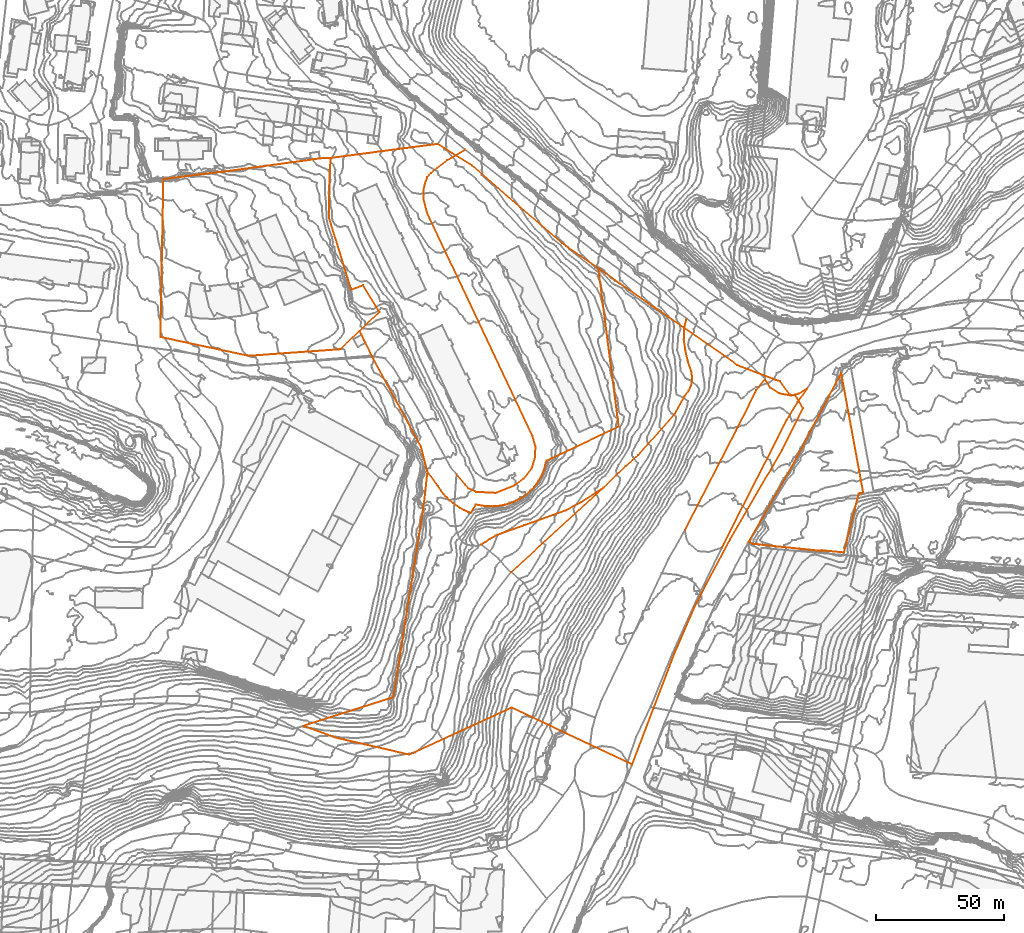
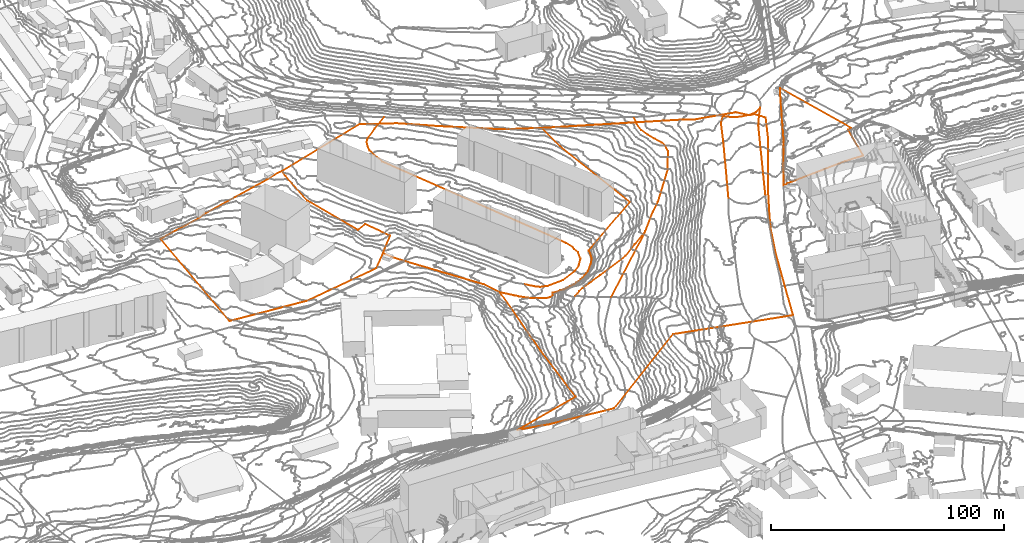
# Not in any storey, part 249 of 419: 11 proxies.
"""IFC2X3 model written with IfcOpenShell, lengths in metres."""

from ifc_helpers import new_model, entity, si_unit, frame, origin_with_axes, place, context, subcontext, project, element, save


model = new_model("IFC2X3")

# Units and contexts
model_context = context("Model", 3, precision=1e-05, world=origin_with_axes())
body_context = subcontext(model_context, "Body", "Model", "MODEL_VIEW")
ifc_project = project(units=[si_unit("AREAUNIT", "SQUARE_METRE"), si_unit("LENGTHUNIT", "METRE")], contexts=[model_context])

# Proxies
proxy_1_placement = place(None, frame((797.4920204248, 538.5976909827, 71.9), z_axis=(0.0, 0.0, 1.0), x_axis=(1.0, 0.0, 0.0)))
element("IfcBuildingElementProxy", 1, at=proxy_1_placement, Name="Route 43", ObjectType="NOTDEFINED", context=body_context, shape_type="GeometricCurveSet", body=[
    entity("IfcGeometricCurveSet", [entity("IfcPolyline", [entity("IfcCartesianPoint", [0.0, 0.0, 0.0]), entity("IfcCartesianPoint", [2.0, -3.4000000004, 0.8]), entity("IfcCartesianPoint", [5.4, -5.6000000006, 1.1]), entity("IfcCartesianPoint", [10.0, -6.5, 1.2]), entity("IfcCartesianPoint", [13.1, -5.7999999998, 1.1]), entity("IfcCartesianPoint", [16.4, -3.7000000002, 1.0])])]),
])
proxy_2_placement = place(None, frame((698.5920204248, 463.2976909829, 57.2), z_axis=(0.0, 0.0, 1.0), x_axis=(1.0, 0.0, 0.0)))
element("IfcBuildingElementProxy", 2, at=proxy_2_placement, Name="Route 83", ObjectType="NOTDEFINED", context=body_context, shape_type="GeometricCurveSet", body=[
    entity("IfcGeometricCurveSet", [entity("IfcPolyline", [entity("IfcCartesianPoint", [36.0, 33.0, 1.8]), entity("IfcCartesianPoint", [0.0, 0.0, 0.0])])]),
])
proxy_3_placement = place(None, frame((780.6920204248, 472.8976909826, 76.0), z_axis=(0.0, 0.0, 1.0), x_axis=(1.0, 0.0, 0.0)))
element("IfcBuildingElementProxy", 3, at=proxy_3_placement, Name="Route 107", ObjectType="NOTDEFINED", context=body_context, shape_type="GeometricCurveSet", body=[
    entity("IfcGeometricCurveSet", [entity("IfcPolyline", [entity("IfcCartesianPoint", [33.2000000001, 62.0, -3.1]), entity("IfcCartesianPoint", [29.5, 56.5999999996, -3.0]), entity("IfcCartesianPoint", [25.2000000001, 49.7000000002, -2.3]), entity("IfcCartesianPoint", [0.0, 0.0, 0.0])])]),
])
proxy_4_placement = place(None, frame((734.5920204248, 496.2976909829, 59.2), z_axis=(0.0, 0.0, 1.0), x_axis=(1.0, 0.0, 0.0)))
element("IfcBuildingElementProxy", 4, at=proxy_4_placement, Name="Route 172", ObjectType="NOTDEFINED", context=body_context, shape_type="GeometricCurveSet", body=[
    entity("IfcGeometricCurveSet", [entity("IfcPolyline", [entity("IfcCartesianPoint", [32.3, 65.7999999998, 8.7]), entity("IfcCartesianPoint", [31.4, 61.8999999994, 7.8]), entity("IfcCartesianPoint", [31.3, 57.6999999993, 7.1]), entity("IfcCartesianPoint", [31.9, 53.2999999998, 7.1]), entity("IfcCartesianPoint", [32.9, 49.0999999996, 7.1]), entity("IfcCartesianPoint", [34.2, 45.2999999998, 7.1]), entity("IfcCartesianPoint", [34.6, 42.5999999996, 6.7]), entity("IfcCartesianPoint", [34.1, 39.5999999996, 6.0]), entity("IfcCartesianPoint", [33.2, 37.7999999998, 5.7]), entity("IfcCartesianPoint", [31.6, 35.5999999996, 5.6]), entity("IfcCartesianPoint", [27.7, 28.5999999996, 5.4]), entity("IfcCartesianPoint", [13.5, 12.5999999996, 2.9]), entity("IfcCartesianPoint", [8.6, 8.2999999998, 2.3]), entity("IfcCartesianPoint", [0.0, 0.0, 0.0])])]),
])
proxy_5_placement = place(None, frame((664.4920204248, 611.9976909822, 55.9), z_axis=(0.0, 0.0, 1.0), x_axis=(1.0, 0.0, 0.0)))
element("IfcBuildingElementProxy", 5, at=proxy_5_placement, Name="Route 222", ObjectType="NOTDEFINED", context=body_context, shape_type="GeometricCurveSet", body=[
    entity("IfcGeometricCurveSet", [entity("IfcPolyline", [entity("IfcCartesianPoint", [12.9, -110.5, -7.7]), entity("IfcCartesianPoint", [16.2999999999, -114.5, -7.7]), entity("IfcCartesianPoint", [17.6, -116.0999999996, -7.4]), entity("IfcCartesianPoint", [20.6, -117.3999999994, -7.1]), entity("IfcCartesianPoint", [28.2, -117.7999999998, -6.4]), entity("IfcCartesianPoint", [35.6, -114.7999999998, -6.2]), entity("IfcCartesianPoint", [39.1, -112.1999999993, -6.1]), entity("IfcCartesianPoint", [42.1, -108.3999999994, -5.8]), entity("IfcCartesianPoint", [43.5, -103.8999999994, -5.7]), entity("IfcCartesianPoint", [43.6, -100.5999999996, -6.1]), entity("IfcCartesianPoint", [43.6, -99.6999999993, -5.7]), entity("IfcCartesianPoint", [42.5, -95.5999999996, -5.5]), entity("IfcCartesianPoint", [1.4, -8.5999999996, -1.1]), entity("IfcCartesianPoint", [0.1, -3.5, -0.1]), entity("IfcCartesianPoint", [0.0, 0.0, 0.0]), entity("IfcCartesianPoint", [0.6, 2.6000000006, 0.5]), entity("IfcCartesianPoint", [1.5, 5.2000000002, 0.8]), entity("IfcCartesianPoint", [2.9, 6.8000000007, 1.0]), entity("IfcCartesianPoint", [9.2999999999, 11.7000000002, 1.1]), entity("IfcCartesianPoint", [16.2999999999, 15.8000000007, 2.1])])]),
])
proxy_6_placement = place(None, frame((766.2920204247, 479.6976909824, 75.5), z_axis=(0.0, 0.0, 1.0), x_axis=(1.0, 0.0, 0.0)))
element("IfcBuildingElementProxy", 6, at=proxy_6_placement, Name="Route 226", ObjectType="NOTDEFINED", context=body_context, shape_type="GeometricCurveSet", body=[
    entity("IfcGeometricCurveSet", [entity("IfcPolyline", [entity("IfcCartesianPoint", [31.2000000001, 58.9000000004, -3.6]), entity("IfcCartesianPoint", [27.8, 54.6000000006, -3.3]), entity("IfcCartesianPoint", [19.9, 38.7000000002, -1.8]), entity("IfcCartesianPoint", [0.0, 0.0, 0.0])])]),
])
proxy_7_placement = place(None, frame((686.8920204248, 474.0976909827, 55.3), z_axis=(0.0, 0.0, 1.0), x_axis=(1.0, 0.0, 0.0)))
element("IfcBuildingElementProxy", 7, at=proxy_7_placement, Name="Route 279", ObjectType="NOTDEFINED", context=body_context, shape_type="GeometricCurveSet", body=[
    entity("IfcGeometricCurveSet", [entity("IfcPolyline", [entity("IfcCartesianPoint", [47.7, 22.2000000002, 4.0]), entity("IfcCartesianPoint", [39.2, 16.5999999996, 3.3]), entity("IfcCartesianPoint", [32.8999999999, 13.2999999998, 1.6]), entity("IfcCartesianPoint", [16.7999999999, 7.5, 0.5]), entity("IfcCartesianPoint", [9.7999999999, 5.0, 0.2]), entity("IfcCartesianPoint", [5.7999999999, 3.5, 0.1]), entity("IfcCartesianPoint", [3.3999999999, 2.2000000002, 0.1]), entity("IfcCartesianPoint", [1.7999999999, 1.0, 0.1]), entity("IfcCartesianPoint", [0.0, 0.0, 0.0])])]),
])
proxy_8_placement = place(None, frame((562.1020204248, 554.877690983, 36.8823366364), z_axis=(0.0, 0.0, 1.0), x_axis=(1.0, 0.0, 0.0)))
element("IfcBuildingElementProxy", 8, at=proxy_8_placement, Name="Cadastre 74", ObjectType="NOTDEFINED", context=body_context, shape_type="GeometricCurveSet", body=[
    entity("IfcGeometricCurveSet", [entity("IfcPolyline", [entity("IfcCartesianPoint", [1.16, 61.5299999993, 5.4516167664]), entity("IfcCartesianPoint", [21.35, 64.0699999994, 7.4095036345]), entity("IfcCartesianPoint", [24.74, 64.4299999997, 8.5172623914]), entity("IfcCartesianPoint", [58.59, 69.0499999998, 11.9956330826]), entity("IfcCartesianPoint", [62.11, 69.5699999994, 12.7199343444]), entity("IfcCartesianPoint", [66.42, 69.7699999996, 13.1703147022]), entity("IfcCartesianPoint", [66.01, 66.2299999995, 12.6375914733]), entity("IfcCartesianPoint", [65.58, 46.7999999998, 11.9165634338]), entity("IfcCartesianPoint", [74.29, 18.4399999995, 10.5295827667]), entity("IfcCartesianPoint", [78.85, 20.1499999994, 11.0054627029]), entity("IfcCartesianPoint", [85.3100000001, 9.7199999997, 8.9385026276]), entity("IfcCartesianPoint", [79.8, 4.7299999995, 7.7774610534]), entity("IfcCartesianPoint", [77.53, 2.4299999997, 6.9771345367]), entity("IfcCartesianPoint", [69.91, -4.75, 6.0328317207]), entity("IfcCartesianPoint", [34.27, -7.3100000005, 3.0555112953]), entity("IfcCartesianPoint", [0.0, 0.0, 0.0]), entity("IfcCartesianPoint", [1.16, 61.5299999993, 5.4516167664])])]),
])
proxy_9_placement = place(None, frame((627.6820204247, 601.6776909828, 48.7989000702), z_axis=(0.0, 0.0, 1.0), x_axis=(1.0, 0.0, 0.0)))
element("IfcBuildingElementProxy", 9, at=proxy_9_placement, Name="Cadastre 79", ObjectType="NOTDEFINED", context=body_context, shape_type="GeometricCurveSet", body=[
    entity("IfcGeometricCurveSet", [entity("IfcPolyline", [entity("IfcCartesianPoint", [16.9800000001, -54.5300000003, -4.8035241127]), entity("IfcCartesianPoint", [14.28, -49.0700000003, -5.1670148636]), entity("IfcCartesianPoint", [12.6800000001, -45.8500000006, -5.0552431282]), entity("IfcCartesianPoint", [11.9500000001, -44.3700000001, -4.9394288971]), entity("IfcCartesianPoint", [14.2200000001, -42.0700000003, -4.1391023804]), entity("IfcCartesianPoint", [19.7300000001, -37.0800000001, -2.9780608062]), entity("IfcCartesianPoint", [13.27, -26.6500000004, -0.9111007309]), entity("IfcCartesianPoint", [8.7100000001, -28.3600000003, -1.3869806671]), entity("IfcCartesianPoint", [0.0, 0.0, 0.0]), entity("IfcCartesianPoint", [0.4300000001, 19.4299999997, 0.7210280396]), entity("IfcCartesianPoint", [0.8400000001, 22.9699999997, 1.2537512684]), entity("IfcCartesianPoint", [42.3200000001, 28.3999999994, 8.0895754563]), entity("IfcCartesianPoint", [48.0600000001, 24.7800000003, 8.2863096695]), entity("IfcCartesianPoint", [55.8200000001, 19.9799999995, 8.8385368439]), entity("IfcCartesianPoint", [69.6100000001, 7.8999999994, 9.8355805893]), entity("IfcCartesianPoint", [90.7300000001, -10.25, 11.7821489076]), entity("IfcCartesianPoint", [104.9400000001, -20.1200000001, 13.5222397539]), entity("IfcCartesianPoint", [106.54, -32.5700000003, 10.8872187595]), entity("IfcCartesianPoint", [112.87, -81.6600000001, 9.2132996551]), entity("IfcCartesianPoint", [84.7300000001, -94.9100000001, 1.5419002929]), entity("IfcCartesianPoint", [84.54, -95.8600000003, 2.0285126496]), entity("IfcCartesianPoint", [84.17, -97.3100000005, 2.0158572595]), entity("IfcCartesianPoint", [83.7000000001, -98.7300000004, 2.118805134]), entity("IfcCartesianPoint", [83.13, -100.1000000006, 2.1532557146]), entity("IfcCartesianPoint", [82.4700000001, -101.4400000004, 2.3638680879]), entity("IfcCartesianPoint", [81.7100000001, -102.7199999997, 2.299100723]), entity("IfcCartesianPoint", [80.87, -103.96, 2.2443490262]), entity("IfcCartesianPoint", [79.9500000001, -105.1299999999, 2.4373208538]), entity("IfcCartesianPoint", [78.9500000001, -106.2300000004, 2.4890593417]), entity("IfcCartesianPoint", [77.8600000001, -107.25, 1.8885738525]), entity("IfcCartesianPoint", [76.7100000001, -108.2000000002, 1.3194195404]), entity("IfcCartesianPoint", [75.5, -109.0800000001, 1.3533200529]), entity("IfcCartesianPoint", [74.2300000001, -109.8600000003, 1.3452830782]), entity("IfcCartesianPoint", [72.91, -110.5499999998, 1.1391006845]), entity("IfcCartesianPoint", [71.54, -111.1400000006, 1.0266997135]), entity("IfcCartesianPoint", [70.14, -111.6400000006, 0.9411196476]), entity("IfcCartesianPoint", [68.7000000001, -112.0600000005, 0.681493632]), entity("IfcCartesianPoint", [67.9700000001, -112.21, 0.3507472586]), entity("IfcCartesianPoint", [67.1100000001, -112.3700000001, 0.3673799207]), entity("IfcCartesianPoint", [65.4800000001, -112.5899999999, 0.4961570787]), entity("IfcCartesianPoint", [63.8400000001, -112.7000000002, 0.1771444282]), entity("IfcCartesianPoint", [62.2000000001, -112.6799999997, -0.1154002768]), entity("IfcCartesianPoint", [60.55, -112.5600000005, -0.1234280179]), entity("IfcCartesianPoint", [58.55, -112.2400000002, -0.5839095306]), entity("IfcCartesianPoint", [57.1900000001, -111.9900000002, -0.5513130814]), entity("IfcCartesianPoint", [55.2100000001, -115.2999999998, 0.8984596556]), entity("IfcCartesianPoint", [54.16, -114.8900000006, -0.0122494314]), entity("IfcCartesianPoint", [52.62, -114.1900000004, -0.457544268]), entity("IfcCartesianPoint", [51.13, -113.3700000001, -0.4850853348]), entity("IfcCartesianPoint", [49.7000000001, -112.46, -0.5627224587]), entity("IfcCartesianPoint", [48.3300000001, -111.46, -0.6495888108]), entity("IfcCartesianPoint", [47.03, -110.3600000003, -0.7554770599]), entity("IfcCartesianPoint", [45.8200000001, -109.1699999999, -0.8503942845]), entity("IfcCartesianPoint", [44.7000000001, -107.9000000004, -0.9227893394]), entity("IfcCartesianPoint", [43.66, -106.5499999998, -1.0408241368]), entity("IfcCartesianPoint", [42.4800000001, -104.7599999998, -1.1551530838]), entity("IfcCartesianPoint", [38.39, -99.1200000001, -1.6214275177]), entity("IfcCartesianPoint", [35.87, -89.4900000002, -2.3164869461]), entity("IfcCartesianPoint", [16.9800000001, -54.5300000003, -4.8035241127])])]),
])
proxy_10_placement = place(None, frame((617.7520204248, 403.5176909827, 52.031232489), z_axis=(0.0, 0.0, 1.0), x_axis=(1.0, 0.0, 0.0)))
element("IfcBuildingElementProxy", 10, at=proxy_10_placement, Name="Cadastre 81", ObjectType="NOTDEFINED", context=body_context, shape_type="GeometricCurveSet", body=[
    entity("IfcGeometricCurveSet", [entity("IfcPolyline", [entity("IfcCartesianPoint", [0.0, 0.0, 0.0]), entity("IfcCartesianPoint", [35.11, 11.1900000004, -1.6342585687]), entity("IfcCartesianPoint", [41.59, 52.3700000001, -4.8170572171]), entity("IfcCartesianPoint", [47.03, 87.0300000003, -5.2734078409]), entity("IfcCartesianPoint", [48.3199999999, 99.04, -4.8537599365]), entity("IfcCartesianPoint", [52.41, 93.4000000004, -4.3874855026]), entity("IfcCartesianPoint", [53.59, 91.6100000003, -4.2731565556]), entity("IfcCartesianPoint", [54.63, 90.2599999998, -4.1551217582]), entity("IfcCartesianPoint", [55.75, 88.9900000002, -4.0827267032]), entity("IfcCartesianPoint", [56.96, 87.7999999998, -3.9878094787]), entity("IfcCartesianPoint", [58.26, 86.7000000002, -3.8819212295]), entity("IfcCartesianPoint", [59.63, 85.7000000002, -3.7950548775]), entity("IfcCartesianPoint", [61.0599999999, 84.79, -3.7174177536]), entity("IfcCartesianPoint", [62.5499999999, 83.9699999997, -3.6898766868]), entity("IfcCartesianPoint", [64.09, 83.2699999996, -3.2445818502]), entity("IfcCartesianPoint", [65.14, 82.8600000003, -2.3338727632]), entity("IfcCartesianPoint", [67.12, 86.1699999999, -3.7836455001]), entity("IfcCartesianPoint", [68.48, 85.9199999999, -3.8162419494]), entity("IfcCartesianPoint", [70.48, 85.5999999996, -3.3557604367]), entity("IfcCartesianPoint", [72.13, 85.4800000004, -3.3477326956]), entity("IfcCartesianPoint", [73.77, 85.46, -3.0551879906]), entity("IfcCartesianPoint", [75.41, 85.5700000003, -2.7361753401]), entity("IfcCartesianPoint", [77.04, 85.79, -2.8649524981]), entity("IfcCartesianPoint", [77.9, 85.9500000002, -2.8815851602]), entity("IfcCartesianPoint", [78.63, 86.0999999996, -2.5508387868]), entity("IfcCartesianPoint", [80.0699999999, 86.5199999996, -2.2912127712]), entity("IfcCartesianPoint", [81.47, 87.0199999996, -2.2056327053]), entity("IfcCartesianPoint", [82.84, 87.6100000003, -2.0932317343]), entity("IfcCartesianPoint", [84.16, 88.2999999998, -1.8870493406]), entity("IfcCartesianPoint", [85.4299999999, 89.0800000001, -1.8790123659]), entity("IfcCartesianPoint", [86.64, 89.96, -1.9129128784]), entity("IfcCartesianPoint", [87.79, 90.9100000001, -1.3437585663]), entity("IfcCartesianPoint", [88.88, 91.9299999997, -0.7432730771]), entity("IfcCartesianPoint", [89.88, 93.0300000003, -0.795011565]), entity("IfcCartesianPoint", [90.7999999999, 94.2000000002, -0.9879833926]), entity("IfcCartesianPoint", [91.64, 95.4400000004, -0.9332316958]), entity("IfcCartesianPoint", [92.4, 96.7199999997, -0.8684643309]), entity("IfcCartesianPoint", [93.0599999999, 98.0599999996, -1.0790767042]), entity("IfcCartesianPoint", [93.63, 99.4299999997, -1.1135272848]), entity("IfcCartesianPoint", [94.1, 100.8499999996, -1.2164751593]), entity("IfcCartesianPoint", [94.47, 102.2999999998, -1.2038197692]), entity("IfcCartesianPoint", [94.66, 103.25, -1.6904321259]), entity("IfcCartesianPoint", [122.7999999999, 116.5, 5.9809672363]), entity("IfcCartesianPoint", [116.47, 165.5899999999, 7.6548863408]), entity("IfcCartesianPoint", [114.87, 178.04, 10.2899073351]), entity("IfcCartesianPoint", [163.97, 144.0199999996, 18.0261427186]), entity("IfcCartesianPoint", [168.95, 140.4000000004, 18.6484266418]), entity("IfcCartesianPoint", [184.11, 134.6100000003, 20.2118269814]), entity("IfcCartesianPoint", [185.54, 134.1900000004, 20.3250566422]), entity("IfcCartesianPoint", [189.4, 128.9400000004, 20.5745681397]), entity("IfcCartesianPoint", [191.6, 128.6600000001, 20.5665683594]), entity("IfcCartesianPoint", [194.51, 123.75, 20.7249016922]), entity("IfcCartesianPoint", [186.38, 107.4400000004, 21.6098952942]), entity("IfcCartesianPoint", [166.08, 72.4800000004, 23.4606075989]), entity("IfcCartesianPoint", [156.97, 55.4699999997, 23.8789672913]), entity("IfcCartesianPoint", [152.35, 46.3399999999, 24.0484290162]), entity("IfcCartesianPoint", [144.89, 29.21, 24.2627996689]), entity("IfcCartesianPoint", [127.96, -15.0300000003, 24.5002666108]), entity("IfcCartesianPoint", [81.0499999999, 7.0899999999, 17.5179917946]), entity("IfcCartesianPoint", [41.24, -11.2199999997, 3.6699675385]), entity("IfcCartesianPoint", [12.58, -4.6200000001, 1.2991674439]), entity("IfcCartesianPoint", [0.0, 0.0, 0.0])])]),
])
proxy_11_placement = place(None, frame((791.0520204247, 475.0776909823, 76.0848555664), z_axis=(0.0, 0.0, 1.0), x_axis=(1.0, 0.0, 0.0)))
element("IfcBuildingElementProxy", 11, at=proxy_11_placement, Name="Cadastre 101", ObjectType="NOTDEFINED", context=body_context, shape_type="GeometricCurveSet", body=[
    entity("IfcGeometricCurveSet", [entity("IfcPolyline", [entity("IfcCartesianPoint", [37.14, -4.0799999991, 5.2451450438]), entity("IfcCartesianPoint", [28.51, -3.21, 4.8692708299]), entity("IfcCartesianPoint", [28.39, -3.4899999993, 5.0868553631]), entity("IfcCartesianPoint", [1.55, -0.71, 1.1819683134]), entity("IfcCartesianPoint", [0.0, 0.0, 0.0]), entity("IfcCartesianPoint", [17.52, 30.5200000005, 0.1350655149]), entity("IfcCartesianPoint", [35.3200000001, 64.4500000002, -1.5857696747]), entity("IfcCartesianPoint", [36.13, 65.7300000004, -1.3134402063]), entity("IfcCartesianPoint", [44.7000000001, 19.2800000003, 2.921675]), entity("IfcCartesianPoint", [42.9400000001, 18.9500000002, 2.9366043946]), entity("IfcCartesianPoint", [37.14, -4.0799999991, 5.2451450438])])]),
])

save(model, "model.ifc")
